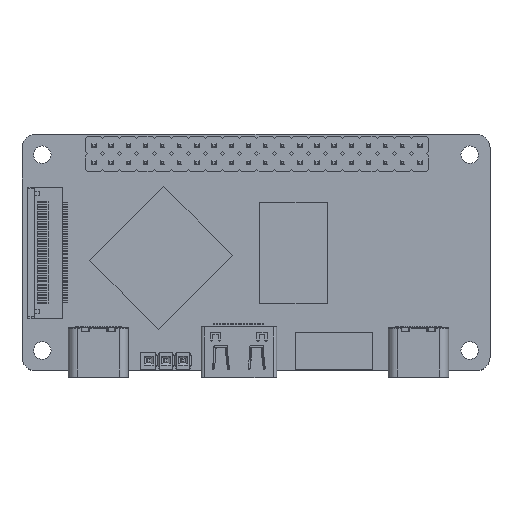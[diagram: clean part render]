
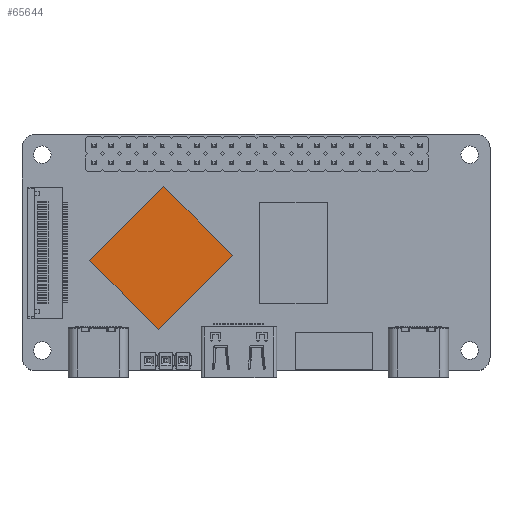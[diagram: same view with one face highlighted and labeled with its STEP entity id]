
A CAD part, top view. The second image highlights one B-rep face of the part: STEP entity #65644.
In plain terms, the highlighted planar face has unit normal (0, 0, 1).
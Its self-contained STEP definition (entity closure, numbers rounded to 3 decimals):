
#975 = CARTESIAN_POINT ( 'NONE',  ( 10.028, 16.312, 0.8 ) ) ;
#8292 = EDGE_LOOP ( 'NONE', ( #35400, #76740, #52276, #104352 ) ) ;
#15805 = CARTESIAN_POINT ( 'NONE',  ( 20.212, 6.128, 0.8 ) ) ;
#17902 = CARTESIAN_POINT ( 'NONE',  ( 20.988, 27.271, 0.8 ) ) ;
#18799 = LINE ( 'NONE', #38396, #107133 ) ;
#22261 = FACE_OUTER_BOUND ( 'NONE', #8292, .T. ) ;
#23585 = DIRECTION ( 'NONE',  ( 0., 0., 1. ) ) ;
#28734 = EDGE_CURVE ( 'NONE', #95251, #29584, #82854, .T. ) ;
#29584 = VERTEX_POINT ( 'NONE', #126970 ) ;
#35400 = ORIENTED_EDGE ( 'NONE', *, *, #28734, .T. ) ;
#38396 = CARTESIAN_POINT ( 'NONE',  ( 20.212, 6.128, 0.8 ) ) ;
#40737 = CARTESIAN_POINT ( 'NONE',  ( 31.172, 17.088, 0.8 ) ) ;
#40830 = EDGE_CURVE ( 'NONE', #77928, #95251, #70224, .T. ) ;
#43187 = CARTESIAN_POINT ( 'NONE',  ( 0., 0., 0.8 ) ) ;
#52276 = ORIENTED_EDGE ( 'NONE', *, *, #77007, .T. ) ;
#53529 = LINE ( 'NONE', #40737, #61974 ) ;
#61974 = VECTOR ( 'NONE', #82650, 1000. ) ;
#64783 = PLANE ( 'NONE',  #93302 ) ;
#65644 = ADVANCED_FACE ( 'NONE', ( #22261 ), #64783, .T. ) ;
#70224 = LINE ( 'NONE', #111579, #82156 ) ;
#76740 = ORIENTED_EDGE ( 'NONE', *, *, #90718, .T. ) ;
#77007 = EDGE_CURVE ( 'NONE', #127097, #77928, #53529, .T. ) ;
#77928 = VERTEX_POINT ( 'NONE', #108959 ) ;
#81661 = DIRECTION ( 'NONE',  ( 0.707, -0.707, 0. ) ) ;
#82156 = VECTOR ( 'NONE', #101358, 1000. ) ;
#82650 = DIRECTION ( 'NONE',  ( 0.707, 0.707, 0. ) ) ;
#82854 = LINE ( 'NONE', #975, #125823 ) ;
#90718 = EDGE_CURVE ( 'NONE', #29584, #127097, #18799, .T. ) ;
#93302 = AXIS2_PLACEMENT_3D ( 'NONE', #43187, #23585, #104750 ) ;
#95251 = VERTEX_POINT ( 'NONE', #17902 ) ;
#101358 = DIRECTION ( 'NONE',  ( -0.707, 0.707, 0. ) ) ;
#104352 = ORIENTED_EDGE ( 'NONE', *, *, #40830, .T. ) ;
#104750 = DIRECTION ( 'NONE',  ( 1., 0., 0. ) ) ;
#107133 = VECTOR ( 'NONE', #81661, 1000. ) ;
#108959 = CARTESIAN_POINT ( 'NONE',  ( 31.172, 17.088, 0.8 ) ) ;
#111579 = CARTESIAN_POINT ( 'NONE',  ( 20.988, 27.271, 0.8 ) ) ;
#123449 = DIRECTION ( 'NONE',  ( -0.707, -0.707, 0. ) ) ;
#125823 = VECTOR ( 'NONE', #123449, 1000. ) ;
#126970 = CARTESIAN_POINT ( 'NONE',  ( 10.028, 16.312, 0.8 ) ) ;
#127097 = VERTEX_POINT ( 'NONE', #15805 ) ;
